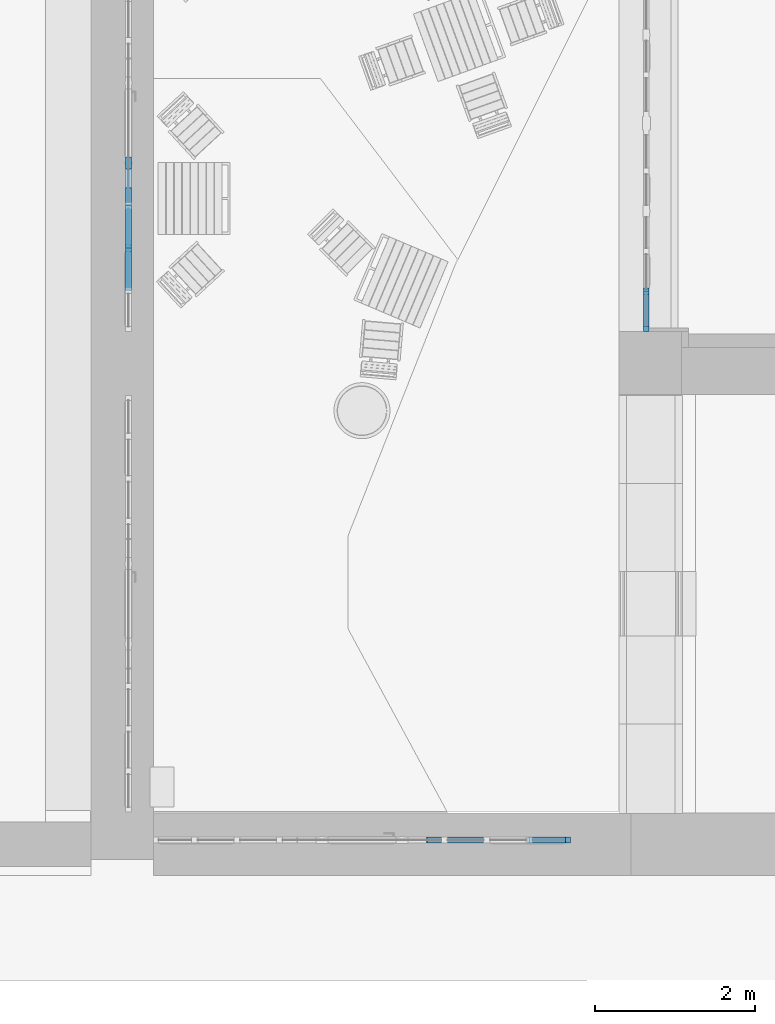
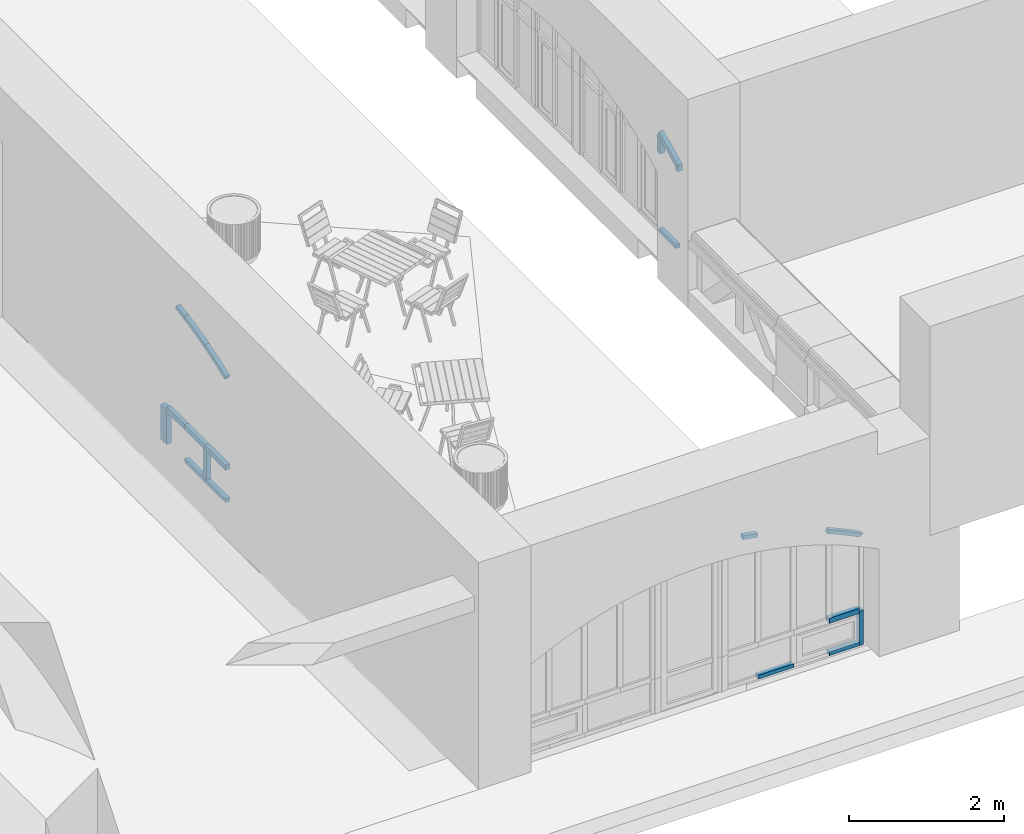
# One storey, part 19 of 88: 20 members, 3 elements without a shape of their own.
"""IFC2X3 building model written with IfcOpenShell, lengths in millimetres."""

from ifc_helpers import new_model, entity, si_unit, converted_unit, derived_unit, direction, frame, frame_2d, origin, place, context, subcontext, project, spatial, polyline, circle_curve, parameter, trimmed, segment, composite_curve, rectangle, outline, extrude, source, transform, mapped, material, type_object, type_shapes, element, aggregate, save


model = new_model("IFC2X3")

# Units and contexts
model_context = context("Model", 3, precision=0.01, world=origin(), true_north=direction((6.123031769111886e-17, 1.0)))
body_context = subcontext(model_context, "Body", "Model", "MODEL_VIEW")
ifc_project = project(units=[si_unit("LENGTHUNIT", "METRE", prefix="MILLI"), si_unit("AREAUNIT", "SQUARE_METRE"), si_unit("VOLUMEUNIT", "CUBIC_METRE"), converted_unit("PLANEANGLEUNIT", "DEGREE", entity("IfcPlaneAngleMeasure", 0.017453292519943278), si_unit("PLANEANGLEUNIT", "RADIAN"), dimensions=[0, 0, 0, 0, 0, 0, 0]), si_unit("MASSUNIT", "GRAM", prefix="KILO"), derived_unit("MASSDENSITYUNIT", [(si_unit("MASSUNIT", "GRAM", prefix="KILO"), 1), (si_unit("LENGTHUNIT", "METRE"), -3)]), derived_unit("IONCONCENTRATIONUNIT", [(si_unit("MASSUNIT", "GRAM", prefix="KILO"), 1), (si_unit("LENGTHUNIT", "METRE"), -3)]), derived_unit("MOMENTOFINERTIAUNIT", [(si_unit("LENGTHUNIT", "METRE"), 4)]), si_unit("TIMEUNIT", "SECOND"), si_unit("FREQUENCYUNIT", "HERTZ"), si_unit("THERMODYNAMICTEMPERATUREUNIT", "DEGREE_CELSIUS"), derived_unit("THERMALTRANSMITTANCEUNIT", [(si_unit("MASSUNIT", "GRAM", prefix="KILO"), 1), (si_unit("THERMODYNAMICTEMPERATUREUNIT", "KELVIN"), -1), (si_unit("TIMEUNIT", "SECOND"), -3)]), derived_unit("THERMALCONDUCTANCEUNIT", [(si_unit("MASSUNIT", "GRAM", prefix="KILO"), 1), (si_unit("THERMODYNAMICTEMPERATUREUNIT", "KELVIN"), -1), (si_unit("TIMEUNIT", "SECOND"), -3), (si_unit("LENGTHUNIT", "METRE"), 1)]), derived_unit("VOLUMETRICFLOWRATEUNIT", [(si_unit("LENGTHUNIT", "METRE", prefix="DECI"), 3), (si_unit("TIMEUNIT", "SECOND"), -1)]), derived_unit("MASSFLOWRATEUNIT", [(si_unit("MASSUNIT", "GRAM", prefix="KILO"), 1), (si_unit("TIMEUNIT", "SECOND"), -1)]), derived_unit("ROTATIONALFREQUENCYUNIT", [(si_unit("TIMEUNIT", "SECOND"), -1)]), si_unit("ELECTRICCURRENTUNIT", "AMPERE"), si_unit("ELECTRICVOLTAGEUNIT", "VOLT"), si_unit("POWERUNIT", "WATT"), si_unit("FORCEUNIT", "NEWTON", prefix="KILO"), si_unit("ILLUMINANCEUNIT", "LUX"), si_unit("LUMINOUSFLUXUNIT", "LUMEN"), si_unit("LUMINOUSINTENSITYUNIT", "CANDELA"), si_unit("ENERGYUNIT", "JOULE"), derived_unit("USERDEFINED", [(si_unit("MASSUNIT", "GRAM", prefix="KILO"), -1), (si_unit("LENGTHUNIT", "METRE"), -2), (si_unit("TIMEUNIT", "SECOND"), 3), (si_unit("LUMINOUSFLUXUNIT", "LUMEN"), 1)]), derived_unit("USERDEFINED", [(si_unit("MASSUNIT", "GRAM", prefix="KILO"), 1), (si_unit("TIMEUNIT", "SECOND"), -3), (si_unit("LENGTHUNIT", "METRE"), 3), (si_unit("ELECTRICCURRENTUNIT", "AMPERE"), -2)]), derived_unit("SOUNDPOWERUNIT", [(si_unit("MASSUNIT", "GRAM", prefix="KILO"), 1), (si_unit("TIMEUNIT", "SECOND"), -3), (si_unit("LENGTHUNIT", "METRE"), 2)]), derived_unit("SOUNDPRESSUREUNIT", [(si_unit("MASSUNIT", "GRAM", prefix="KILO"), 1), (si_unit("LENGTHUNIT", "METRE"), -1), (si_unit("TIMEUNIT", "SECOND"), -2)]), derived_unit("LINEARVELOCITYUNIT", [(si_unit("LENGTHUNIT", "METRE"), 1), (si_unit("TIMEUNIT", "SECOND"), -1)]), si_unit("PRESSUREUNIT", "PASCAL"), derived_unit("USERDEFINED", [(si_unit("MASSUNIT", "GRAM", prefix="KILO"), 1), (si_unit("LENGTHUNIT", "METRE"), -2), (si_unit("TIMEUNIT", "SECOND"), -2)]), derived_unit("LINEARFORCEUNIT", [(si_unit("MASSUNIT", "GRAM", prefix="KILO"), 1), (si_unit("TIMEUNIT", "SECOND"), -2)]), derived_unit("PLANARFORCEUNIT", [(si_unit("MASSUNIT", "GRAM", prefix="KILO"), 1), (si_unit("LENGTHUNIT", "METRE"), -1), (si_unit("TIMEUNIT", "SECOND"), -2)]), derived_unit("SPECIFICHEATCAPACITYUNIT", [(si_unit("THERMODYNAMICTEMPERATUREUNIT", "KELVIN"), -1), (si_unit("LENGTHUNIT", "METRE"), 2), (si_unit("TIMEUNIT", "SECOND"), -2)]), derived_unit("HEATFLUXDENSITYUNIT", [(si_unit("MASSUNIT", "GRAM", prefix="KILO"), 1), (si_unit("TIMEUNIT", "SECOND"), -3)]), derived_unit("HEATINGVALUEUNIT", [(si_unit("LENGTHUNIT", "METRE"), 2), (si_unit("TIMEUNIT", "SECOND"), -2)]), derived_unit("VAPORPERMEABILITYUNIT", [(si_unit("LENGTHUNIT", "METRE"), -1), (si_unit("TIMEUNIT", "SECOND"), 1)]), derived_unit("DYNAMICVISCOSITYUNIT", [(si_unit("MASSUNIT", "GRAM", prefix="KILO"), 1), (si_unit("TIMEUNIT", "SECOND"), -1), (si_unit("LENGTHUNIT", "METRE"), -1)]), derived_unit("THERMALEXPANSIONCOEFFICIENTUNIT", [(si_unit("THERMODYNAMICTEMPERATUREUNIT", "KELVIN"), -1)]), derived_unit("MODULUSOFELASTICITYUNIT", [(si_unit("MASSUNIT", "GRAM", prefix="KILO"), 1), (si_unit("LENGTHUNIT", "METRE"), -1), (si_unit("TIMEUNIT", "SECOND"), -2)]), derived_unit("ISOTHERMALMOISTURECAPACITYUNIT", [(si_unit("MASSUNIT", "GRAM", prefix="KILO"), -1), (si_unit("LENGTHUNIT", "METRE"), 3)]), derived_unit("MOISTUREDIFFUSIVITYUNIT", [(si_unit("TIMEUNIT", "SECOND"), -1), (si_unit("LENGTHUNIT", "METRE"), 2)]), derived_unit("MASSPERLENGTHUNIT", [(si_unit("MASSUNIT", "GRAM", prefix="KILO"), 1), (si_unit("LENGTHUNIT", "METRE"), -1)]), derived_unit("THERMALRESISTANCEUNIT", [(si_unit("MASSUNIT", "GRAM", prefix="KILO"), -1), (si_unit("TIMEUNIT", "SECOND"), 3), (si_unit("THERMODYNAMICTEMPERATUREUNIT", "KELVIN"), 1)]), derived_unit("ACCELERATIONUNIT", [(si_unit("LENGTHUNIT", "METRE"), 1), (si_unit("TIMEUNIT", "SECOND"), -2)]), derived_unit("ANGULARVELOCITYUNIT", [(si_unit("TIMEUNIT", "SECOND"), -1), (si_unit("PLANEANGLEUNIT", "RADIAN"), 1)]), derived_unit("LINEARSTIFFNESSUNIT", [(si_unit("MASSUNIT", "GRAM", prefix="KILO"), 1), (si_unit("TIMEUNIT", "SECOND"), -2)]), derived_unit("WARPINGCONSTANTUNIT", [(si_unit("LENGTHUNIT", "METRE"), 6)]), derived_unit("LINEARMOMENTUNIT", [(si_unit("MASSUNIT", "GRAM", prefix="KILO"), 1), (si_unit("LENGTHUNIT", "METRE"), 1), (si_unit("TIMEUNIT", "SECOND"), -2)]), derived_unit("TORQUEUNIT", [(si_unit("MASSUNIT", "GRAM", prefix="KILO"), 1), (si_unit("LENGTHUNIT", "METRE"), 2), (si_unit("TIMEUNIT", "SECOND"), -2)])], contexts=[model_context])

# Site, building, storey
site_placement = place(None, origin())
site = spatial("IfcSite", under=ifc_project, at=site_placement, Name="Default", CompositionType="ELEMENT")
building_placement = place(site_placement, origin())
building = spatial("IfcBuilding", under=site, at=building_placement, Name="Eesti Rahvusraamatukogu hoone renoveerimise projekteerimistööd", CompositionType="ELEMENT")
storey_placement = place(building_placement, origin())
storey = spatial("IfcBuildingStorey", under=building, at=storey_placement, Name="1. korrus", CompositionType="ELEMENT", Elevation=0.0)

# Curtain wall, members
curtain_wall_type_1 = type_object("IfcCurtainWallType", Name="Curtain Wall:Ak-02", PredefinedType="NOTDEFINED")
curtain_wall_1_placement = place(storey_placement, origin())
curtain_wall_1 = element("IfcCurtainWall", 1, at=curtain_wall_1_placement, inside=storey, type_object=curtain_wall_type_1, Name="Curtain Wall:Ak-02", ObjectType="Curtain Wall:Ak-02")
ifc_material = material(Name="LUMION_dark steel window frames")
member_type_1 = type_object("IfcMemberType", Name="Rectangular Mullion:NEW 80x70mm", PredefinedType="MULLION", material=ifc_material)
shared_shape_1 = source(origin(), body_context, "Body", "SweptSolid", [
    extrude(outline(composite_curve([segment(polyline([(-53.11529804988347, -267.70979815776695), (26.884701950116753, -267.709798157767)]), True, "CONTINUOUS"), segment(trimmed(circle_curve(frame_2d((5467.600382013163, -267.70979815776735), x_axis=(-0.9949883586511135, 0.0999908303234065)), 5440.7156800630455), [parameter(0.26669094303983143)], [parameter(5.738642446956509)], True, "PARAMETER"), False, "CONTINUOUS"), segment(polyline([(51.67804717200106, 251.10844964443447), (-25.447451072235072, 284.3111466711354)]), True, "CONTINUOUS"), segment(trimmed(circle_curve(frame_2d((5467.600382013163, -267.70979815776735), x_axis=(-0.9949883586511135, 0.0999908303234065)), 5520.7156800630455), [parameter(3.5622212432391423e-13)], [parameter(5.738642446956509)], True, "PARAMETER"), True, "CONTINUOUS")], self_intersect=False)), frame((-53.748425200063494, -35.0, -280.34176941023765), z_axis=(0.0, 1.0, 0.0), x_axis=(-0.9949883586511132, 0.0, 0.0999908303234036)), (0.0, 0.0, 1.0), 69.99999999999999),
])
type_shapes(member_type_1, [shared_shape_1])
member_1_placement = place(curtain_wall_1_placement, frame((-36440.0, 6790.0, 3320.0), z_axis=(0.0, -0.8821580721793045, -0.4709534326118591), x_axis=(0.0, -0.4709534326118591, 0.8821580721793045)))
member_1 = element("IfcMember", 2, at=member_1_placement, type_object=member_type_1, material=ifc_material, Name="Rectangular Mullion:NEW 80x70mm", ObjectType="Rectangular Mullion:NEW 80x70mm", context=body_context, shape_type="MappedRepresentation", body=[
    mapped(shared_shape_1, transform((0.0, 0.0, 0.0), scale=1.0)),
])
member_type_2 = type_object("IfcMemberType", Name="Rectangular Mullion:NEW 80x70mm", PredefinedType="MULLION", material=ifc_material)
shared_shape_2 = source(origin(), body_context, "Body", "SweptSolid", [
    extrude(outline(composite_curve([segment(polyline([(-151.8249085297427, -46.086167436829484), (80.20942675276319, -46.086167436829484)]), True, "CONTINUOUS"), segment(trimmed(circle_curve(frame_2d((-4921.968809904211, 2093.913832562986), x_axis=(0.8821580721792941, -0.47095343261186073)), 5440.7156800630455), [parameter(4.934304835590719)], [parameter(5.738642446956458)], True, "PARAMETER"), True, "CONTINUOUS"), segment(trimmed(circle_curve(frame_2d((-4921.968809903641, 2093.9138325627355), x_axis=(0.9248280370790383, -0.3803854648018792)), 5440.715680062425), [parameter(0.0)], [parameter(0.1089206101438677)], True, "PARAMETER"), True, "CONTINUOUS"), segment(polyline([(113.68279751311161, 33.91383256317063), (-151.8249085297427, 33.913832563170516)]), True, "CONTINUOUS"), segment(polyline([(-151.8249085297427, 33.913832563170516), (-151.8249085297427, -46.086167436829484)]), True, "CONTINUOUS")], self_intersect=False)), frame((-6.086167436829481, -35.0, -151.8249085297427), z_axis=(0.0, 1.0, 0.0), x_axis=(0.0, 0.0, -1.0)), (0.0, 0.0, 1.0), 70.00000000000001),
])
type_shapes(member_type_2, [shared_shape_2])
member_2_placement = place(curtain_wall_1_placement, frame((-36440.0, 7290.0, 3220.0), z_axis=(0.0, 0.0, -1.0), x_axis=(0.0, -1.0, 0.0)))
member_2 = element("IfcMember", 3, at=member_2_placement, type_object=member_type_2, material=ifc_material, Name="Rectangular Mullion:NEW 80x70mm", ObjectType="Rectangular Mullion:NEW 80x70mm", context=body_context, shape_type="MappedRepresentation", body=[
    mapped(shared_shape_2, transform((0.0, 0.0, 0.0), scale=1.0)),
])
member_type_3 = type_object("IfcMemberType", Name="Rectangular Mullion:NEW 60x70mm", PredefinedType="MULLION", material=ifc_material)
shared_shape_3 = source(origin(), body_context, "Body", "SweptSolid", [
    extrude(rectangle(XDim=60.0, YDim=70.0, at=frame_2d((0.0, 3.552713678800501e-15), x_axis=(1.0, 0.0))), frame((-30.0, 0.0, -440.0), z_axis=(0.0, 0.0, 1.0), x_axis=(-1.0, 0.0, 0.0)), (0.0, 0.0, 1.0), 439.9999999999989),
])
type_shapes(member_type_3, [shared_shape_3])
member_3_placement = place(curtain_wall_1_placement, frame((-36440.0, 7290.0, 1970.0), z_axis=(0.0, 1.0, 0.0), x_axis=(0.0, 0.0, -1.0)))
member_3 = element("IfcMember", 4, at=member_3_placement, type_object=member_type_3, material=ifc_material, Name="Rectangular Mullion:NEW 60x70mm", ObjectType="Rectangular Mullion:NEW 60x70mm", context=body_context, shape_type="MappedRepresentation", body=[
    mapped(shared_shape_3, transform((0.0, 0.0, 0.0), scale=1.0)),
])
member_type_4 = type_object("IfcMemberType", Name="Rectangular Mullion:NEW 60x70mm", PredefinedType="MULLION", material=ifc_material)
shared_shape_4 = source(origin(), body_context, "Body", "SweptSolid", [
    extrude(outline(polyline([(-35.33630318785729, -30.0), (64.6636968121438, -30.0), (6.008909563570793, 30.0), (-35.33630318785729, 30.0), (-35.33630318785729, -30.0)])), frame((-30.0, -35.0, -35.33630318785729), z_axis=(0.0, 1.0, 0.0), x_axis=(0.0, 0.0, -1.0)), (0.0, 0.0, 1.0), 69.99999999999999),
])
type_shapes(member_type_4, [shared_shape_4])
member_4_placement = place(curtain_wall_1_placement, frame((-36440.0, 6790.0, 3220.0), z_axis=(0.0, 0.0, -1.0), x_axis=(0.0, -1.0, 0.0)))
member_4 = element("IfcMember", 5, at=member_4_placement, type_object=member_type_4, material=ifc_material, Name="Rectangular Mullion:NEW 60x70mm", ObjectType="Rectangular Mullion:NEW 60x70mm", context=body_context, shape_type="MappedRepresentation", body=[
    mapped(shared_shape_4, transform((0.0, 0.0, 0.0), scale=1.0)),
])
aggregate(curtain_wall_1, [member_1, member_2, member_3, member_4])

curtain_wall_type_2 = type_object("IfcCurtainWallType", Name="Curtain Wall:Ak-05*", PredefinedType="NOTDEFINED")
curtain_wall_2_placement = place(storey_placement, origin())
curtain_wall_2 = element("IfcCurtainWall", 6, at=curtain_wall_2_placement, inside=storey, type_object=curtain_wall_type_2, Name="Curtain Wall:Ak-05*", ObjectType="Curtain Wall:Ak-05*")
member_type_5 = type_object("IfcMemberType", Name="Rectangular Mullion:NEW 60x70mm", PredefinedType="MULLION", material=ifc_material)
shared_shape_5 = source(origin(), body_context, "Body", "SweptSolid", [
    extrude(outline(composite_curve([segment(polyline([(-44.19959331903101, -278.92780712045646), (15.800406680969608, -278.9278071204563)]), True, "CONTINUOUS"), segment(trimmed(circle_curve(frame_2d((5479.080973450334, -278.9278071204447), x_axis=(-0.9948301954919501, 0.10155236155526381)), 5463.280566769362), [parameter(3.5622212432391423e-13)], [parameter(5.828569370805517)], True, "PARAMETER"), False, "CONTINUOUS"), segment(polyline([(44.04449918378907, 275.8812362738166), (-15.645312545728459, 281.97437796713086)]), True, "CONTINUOUS"), segment(trimmed(circle_curve(frame_2d((5479.080973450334, -278.9278071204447), x_axis=(-0.9948301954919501, 0.10155236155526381)), 5523.280566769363), [parameter(3.5622212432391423e-13)], [parameter(5.828569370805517)], True, "PARAMETER"), True, "CONTINUOUS")], self_intersect=False)), frame((-44.19959331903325, -35.0, -278.9278071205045), z_axis=(0.0, 1.0, 0.0), x_axis=(-0.9948301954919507, 0.0, 0.10155236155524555)), (0.0, 0.0, 1.0), 69.99999999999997),
])
type_shapes(member_type_5, [shared_shape_5])
member_5_placement = place(curtain_wall_2_placement, frame((-42905.0, 7300.0, 1939.3047106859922), z_axis=(0.0, -0.9256428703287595, -0.37839830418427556), x_axis=(0.0, -0.37839830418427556, 0.9256428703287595)))
member_5 = element("IfcMember", 7, at=member_5_placement, type_object=member_type_5, material=ifc_material, Name="Rectangular Mullion:NEW 60x70mm", ObjectType="Rectangular Mullion:NEW 60x70mm", context=body_context, shape_type="MappedRepresentation", body=[
    mapped(shared_shape_5, transform((0.0, 0.0, 0.0), scale=1.0)),
])
member_type_6 = type_object("IfcMemberType", Name="Rectangular Mullion:NEW 60x70mm", PredefinedType="MULLION", material=ifc_material)
shared_shape_6 = source(origin(), body_context, "Body", "SweptSolid", [
    extrude(outline(composite_curve([segment(polyline([(-43.38278695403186, -270.80676601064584), (16.61721304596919, -270.80676601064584)]), True, "CONTINUOUS"), segment(trimmed(circle_curve(frame_2d((5479.897779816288, -270.80676601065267), x_axis=(-0.9951275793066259, 0.09859564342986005)), 5463.280566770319), [parameter(3.5622212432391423e-13)], [parameter(5.658307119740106)], True, "PARAMETER"), False, "CONTINUOUS"), segment(polyline([(43.23661433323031, 267.8488967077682), (-16.471040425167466, 273.7646353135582)]), True, "CONTINUOUS"), segment(trimmed(circle_curve(frame_2d((5479.897779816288, -270.80676601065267), x_axis=(-0.9951275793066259, 0.09859564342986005)), 5523.280566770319), [parameter(3.5622212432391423e-13)], [parameter(5.658307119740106)], True, "PARAMETER"), True, "CONTINUOUS")], self_intersect=False)), frame((-43.382786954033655, -35.0, -270.8067660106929), z_axis=(0.0, 1.0, 0.0), x_axis=(-0.9951275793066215, 0.0, 0.09859564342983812)), (0.0, 0.0, 1.0), 69.99999999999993),
])
type_shapes(member_type_6, [shared_shape_6])
member_6_placement = place(curtain_wall_2_placement, frame((-42905.0, 7830.0, 2125.1180799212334), z_axis=(0.0, -0.9592847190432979, -0.2824408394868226), x_axis=(0.0, -0.2824408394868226, 0.9592847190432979)))
member_6 = element("IfcMember", 8, at=member_6_placement, type_object=member_type_6, material=ifc_material, Name="Rectangular Mullion:NEW 60x70mm", ObjectType="Rectangular Mullion:NEW 60x70mm", context=body_context, shape_type="MappedRepresentation", body=[
    mapped(shared_shape_6, transform((0.0, 0.0, 0.0), scale=1.0)),
])
member_type_7 = type_object("IfcMemberType", Name="Rectangular Mullion:NEW 60x70mm", PredefinedType="MULLION", material=ifc_material)
shared_shape_7 = source(origin(), body_context, "Body", "SweptSolid", [
    extrude(outline(composite_curve([segment(polyline([(-32.20246871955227, -109.97239538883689), (27.79753128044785, -109.97239538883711)]), True, "CONTINUOUS"), segment(trimmed(circle_curve(frame_2d((5491.078098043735, -109.97239538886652), x_axis=(-0.9991981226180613, 0.040038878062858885)), 5463.280566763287), [parameter(3.5622212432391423e-13)], [parameter(2.2946721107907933)], True, "PARAMETER"), False, "CONTINUOUS"), segment(polyline([(32.17841239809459, 108.77122904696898), (-27.7734749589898, 111.17356173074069)]), True, "CONTINUOUS"), segment(trimmed(circle_curve(frame_2d((5491.078098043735, -109.97239538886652), x_axis=(-0.9991981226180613, 0.040038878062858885)), 5523.280566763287), [parameter(3.5622212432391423e-13)], [parameter(2.2946721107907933)], True, "PARAMETER"), True, "CONTINUOUS")], self_intersect=False)), frame((-32.202468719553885, -35.0, -109.9723953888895), z_axis=(0.0, 1.0, 0.0), x_axis=(-0.9991981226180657, 0.0, 0.04003887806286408)), (0.0, 0.0, 1.0), 69.99999999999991),
])
type_shapes(member_type_7, [shared_shape_7])
member_7_placement = place(curtain_wall_2_placement, frame((-42905.0, 8360.0, 2253.111256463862), z_axis=(0.0, -0.9824581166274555, -0.1864833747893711), x_axis=(0.0, -0.1864833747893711, 0.9824581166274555)))
member_7 = element("IfcMember", 9, at=member_7_placement, type_object=member_type_7, material=ifc_material, Name="Rectangular Mullion:NEW 60x70mm", ObjectType="Rectangular Mullion:NEW 60x70mm", context=body_context, shape_type="MappedRepresentation", body=[
    mapped(shared_shape_7, transform((0.0, 0.0, 0.0), scale=1.0)),
])
member_type_8 = type_object("IfcMemberType", Name="Rectangular Mullion:NEW 150x90mm", PredefinedType="MULLION", material=ifc_material)
shared_shape_8 = source(origin(), body_context, "Body", "SweptSolid", [
    extrude(outline(polyline([(40.0, -20.0), (45.0, -20.0), (45.0, 20.0), (40.0, 20.0), (40.0, 75.0), (-40.0, 75.0), (-40.0, 20.0), (-45.0, 20.0), (-45.0, -20.0), (-40.0, -20.0), (-40.0, -75.0), (40.0, -75.0), (40.0, -20.0)])), frame((0.0, 0.0, -550.0), z_axis=(0.0, 0.0, 1.0), x_axis=(0.0, -1.0, 0.0)), (0.0, 0.0, 1.0), 550.0000000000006),
])
type_shapes(member_type_8, [shared_shape_8])
member_8_placement = place(curtain_wall_2_placement, frame((-42905.0, 8890.0, -50.0), z_axis=(0.0, 0.0, -1.0), x_axis=(0.0, -1.0, 0.0)))
member_8 = element("IfcMember", 10, at=member_8_placement, type_object=member_type_8, material=ifc_material, Name="Rectangular Mullion:NEW 150x90mm", ObjectType="Rectangular Mullion:NEW 150x90mm", context=body_context, shape_type="MappedRepresentation", body=[
    mapped(shared_shape_8, transform((0.0, 0.0, 0.0), scale=1.0)),
])
member_type_9 = type_object("IfcMemberType", Name="Rectangular Mullion:NEW 80x70mm", PredefinedType="MULLION", material=ifc_material)
shared_shape_9 = source(origin(), body_context, "Body", "SweptSolid", [
    extrude(rectangle(XDim=80.0, YDim=70.0, at=frame_2d((0.0, -3.552713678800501e-15), x_axis=(1.0, 0.0))), frame((0.0, 0.0, -530.0), z_axis=(0.0, 0.0, 1.0), x_axis=(-1.0, 0.0, 0.0)), (0.0, 0.0, 1.0), 530.0000000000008),
])
type_shapes(member_type_9, [shared_shape_9])
member_9_placement = place(curtain_wall_2_placement, frame((-42905.0, 7300.0, 500.0), z_axis=(0.0, -1.0, 0.0), x_axis=(0.0, 0.0, 1.0)))
member_9 = element("IfcMember", 11, at=member_9_placement, type_object=member_type_9, material=ifc_material, Name="Rectangular Mullion:NEW 80x70mm", ObjectType="Rectangular Mullion:NEW 80x70mm", context=body_context, shape_type="MappedRepresentation", body=[
    mapped(shared_shape_9, transform((0.0, 0.0, 0.0), scale=1.0)),
])
member_10_placement = place(curtain_wall_2_placement, frame((-42905.0, 7830.0, 500.0), z_axis=(0.0, -1.0, 0.0), x_axis=(0.0, 0.0, 1.0)))
member_10 = element("IfcMember", 12, at=member_10_placement, type_object=member_type_9, material=ifc_material, Name="Rectangular Mullion:NEW 80x70mm", ObjectType="Rectangular Mullion:NEW 80x70mm", context=body_context, shape_type="MappedRepresentation", body=[
    mapped(shared_shape_9, transform((0.0, 0.0, 0.0), scale=1.0)),
])
member_type_10 = type_object("IfcMemberType", Name="Rectangular Mullion:NEW 80x70mm", PredefinedType="MULLION", material=ifc_material)
shared_shape_10 = source(origin(), body_context, "Body", "SweptSolid", [
    extrude(rectangle(XDim=80.0, YDim=70.0, at=frame_2d((0.0, -3.552713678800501e-15), x_axis=(1.0, 0.0))), frame((0.0, 0.0, -455.0), z_axis=(0.0, 0.0, 1.0), x_axis=(-1.0, 0.0, 0.0)), (0.0, 0.0, 1.0), 455.0000000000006),
])
type_shapes(member_type_10, [shared_shape_10])
member_11_placement = place(curtain_wall_2_placement, frame((-42905.0, 8360.0, 500.0), z_axis=(0.0, -1.0, 0.0), x_axis=(0.0, 0.0, 1.0)))
member_11 = element("IfcMember", 13, at=member_11_placement, type_object=member_type_10, material=ifc_material, Name="Rectangular Mullion:NEW 80x70mm", ObjectType="Rectangular Mullion:NEW 80x70mm", context=body_context, shape_type="MappedRepresentation", body=[
    mapped(shared_shape_10, transform((0.0, 0.0, 0.0), scale=1.0)),
])
member_type_11 = type_object("IfcMemberType", Name="Rectangular Mullion:NEW 80x70mm", PredefinedType="MULLION", material=ifc_material)
shared_shape_11 = source(origin(), body_context, "Body", "SweptSolid", [
    extrude(rectangle(XDim=80.0, YDim=70.0, at=frame_2d((0.0, 3.552713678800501e-15), x_axis=(1.0, 0.0))), frame((0.0, 0.0, -450.0), z_axis=(0.0, 0.0, 1.0), x_axis=(-1.0, 0.0, 0.0)), (0.0, 0.0, 1.0), 450.00000000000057),
])
type_shapes(member_type_11, [shared_shape_11])
member_12_placement = place(curtain_wall_2_placement, frame((-42905.0, 7830.0, 10.0), z_axis=(0.0, 0.0, -1.0), x_axis=(0.0, -1.0, 0.0)))
member_12 = element("IfcMember", 14, at=member_12_placement, type_object=member_type_11, material=ifc_material, Name="Rectangular Mullion:NEW 80x70mm", ObjectType="Rectangular Mullion:NEW 80x70mm", context=body_context, shape_type="MappedRepresentation", body=[
    mapped(shared_shape_11, transform((0.0, 0.0, 0.0), scale=1.0)),
])
member_type_12 = type_object("IfcMemberType", Name="Rectangular Mullion:NEW 60x70mm", PredefinedType="MULLION", material=ifc_material)
shared_shape_12 = source(origin(), body_context, "Body", "SweptSolid", [
    extrude(rectangle(XDim=60.0, YDim=70.0, at=frame_2d((0.0, 3.552713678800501e-15), x_axis=(1.0, 0.0))), frame((-30.0, 0.0, -530.0), z_axis=(0.0, 0.0, 1.0), x_axis=(-1.0, 0.0, 0.0)), (0.0, 0.0, 1.0), 530.0000000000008),
])
type_shapes(member_type_12, [shared_shape_12])
member_13_placement = place(curtain_wall_2_placement, frame((-42905.0, 7830.0, -50.0), z_axis=(0.0, 1.0, 0.0), x_axis=(0.0, 0.0, -1.0)))
member_13 = element("IfcMember", 15, at=member_13_placement, type_object=member_type_12, material=ifc_material, Name="Rectangular Mullion:NEW 60x70mm", ObjectType="Rectangular Mullion:NEW 60x70mm", context=body_context, shape_type="MappedRepresentation", body=[
    mapped(shared_shape_12, transform((0.0, 0.0, 0.0), scale=1.0)),
])
member_type_13 = type_object("IfcMemberType", Name="Rectangular Mullion:NEW 60x70mm", PredefinedType="MULLION", material=ifc_material)
shared_shape_13 = source(origin(), body_context, "Body", "SweptSolid", [
    extrude(rectangle(XDim=60.0, YDim=70.0, at=frame_2d((0.0, 3.552713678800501e-15), x_axis=(1.0, 0.0))), frame((-30.0, 0.0, -530.0), z_axis=(0.0, 0.0, 1.0), x_axis=(-1.0, 0.0, 0.0)), (0.0, 0.0, 1.0), 530.0000000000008),
])
type_shapes(member_type_13, [shared_shape_13])
member_14_placement = place(curtain_wall_2_placement, frame((-42905.0, 8360.0, -50.0), z_axis=(0.0, 1.0, 0.0), x_axis=(0.0, 0.0, -1.0)))
member_14 = element("IfcMember", 16, at=member_14_placement, type_object=member_type_13, material=ifc_material, Name="Rectangular Mullion:NEW 60x70mm", ObjectType="Rectangular Mullion:NEW 60x70mm", context=body_context, shape_type="MappedRepresentation", body=[
    mapped(shared_shape_13, transform((0.0, 0.0, 0.0), scale=1.0)),
])
aggregate(curtain_wall_2, [member_5, member_6, member_7, member_8, member_9, member_10, member_11, member_12, member_13, member_14])

curtain_wall_type_3 = type_object("IfcCurtainWallType", Name="Curtain Wall:Ak-05", PredefinedType="NOTDEFINED")
curtain_wall_3_placement = place(storey_placement, origin())
curtain_wall_3 = element("IfcCurtainWall", 17, at=curtain_wall_3_placement, inside=storey, type_object=curtain_wall_type_3, Name="Curtain Wall:Ak-05", ObjectType="Curtain Wall:Ak-05")
member_type_14 = type_object("IfcMemberType", Name="Rectangular Mullion:NEW 60x70mm", PredefinedType="MULLION", material=ifc_material)
shared_shape_14 = source(origin(), body_context, "Body", "SweptSolid", [
    extrude(outline(composite_curve([segment(trimmed(circle_curve(frame_2d((4549.812785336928, 3066.207249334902), x_axis=(-0.8006634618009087, -0.5991143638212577)), 5523.280566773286), [parameter(354.15250498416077)], [parameter(359.99999999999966)], True, "PARAMETER"), True, "CONTINUOUS"), segment(polyline([(127.52384624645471, -242.8694736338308), (175.56365395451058, -206.92261180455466)]), True, "CONTINUOUS"), segment(trimmed(circle_curve(frame_2d((4549.812785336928, 3066.207249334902), x_axis=(-0.8006634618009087, -0.5991143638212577)), 5463.2805667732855), [parameter(354.53073311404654)], [parameter(359.99999999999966)], True, "PARAMETER"), False, "CONTINUOUS"), segment(polyline([(-116.4903743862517, 224.89604271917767), (-186.5971258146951, 224.89604271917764)]), True, "CONTINUOUS")], self_intersect=False)), frame((-43.402905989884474, -35.0, -270.8580815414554), z_axis=(0.0, -1.0, 0.0), x_axis=(-0.800663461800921, 0.0, 0.5991143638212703)), (0.0, 0.0, -1.0), 69.99999999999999),
])
type_shapes(member_type_14, [shared_shape_14])
member_15_placement = place(curtain_wall_3_placement, frame((-37900.0, 440.0, 1939.3047106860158), z_axis=(-0.9256428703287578, 0.0, 0.3783983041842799), x_axis=(0.3783983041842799, 0.0, 0.9256428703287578)))
member_15 = element("IfcMember", 18, at=member_15_placement, type_object=member_type_14, material=ifc_material, Name="Rectangular Mullion:NEW 60x70mm", ObjectType="Rectangular Mullion:NEW 60x70mm", context=body_context, shape_type="MappedRepresentation", body=[
    mapped(shared_shape_14, transform((0.0, 0.0, 0.0), scale=1.0)),
])
member_type_15 = type_object("IfcMemberType", Name="Rectangular Mullion:NEW 80x70mm", PredefinedType="MULLION", material=ifc_material)
shared_shape_15 = source(origin(), body_context, "Body", "SweptSolid", [
    extrude(rectangle(XDim=80.0, YDim=70.0, at=frame_2d((0.0, -3.552713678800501e-15), x_axis=(1.0, 0.0))), frame((0.0, 0.0, -450.0), z_axis=(0.0, 0.0, 1.0), x_axis=(-1.0, 0.0, 0.0)), (0.0, 0.0, 1.0), 449.9999999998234),
])
type_shapes(member_type_15, [shared_shape_15])
member_16_placement = place(curtain_wall_3_placement, frame((-37900.0, 440.0, 500.0), z_axis=(-1.0, 0.0, 0.0), x_axis=(0.0, 0.0, 1.0)))
member_16 = element("IfcMember", 19, at=member_16_placement, type_object=member_type_15, material=ifc_material, Name="Rectangular Mullion:NEW 80x70mm", ObjectType="Rectangular Mullion:NEW 80x70mm", context=body_context, shape_type="MappedRepresentation", body=[
    mapped(shared_shape_15, transform((0.0, 0.0, 0.0), scale=1.0)),
])
member_type_16 = type_object("IfcMemberType", Name="Rectangular Mullion:NEW 60x70mm", PredefinedType="MULLION", material=ifc_material)
shared_shape_16 = source(origin(), body_context, "Body", "SweptSolid", [
    extrude(rectangle(XDim=60.0, YDim=70.0, at=frame_2d((0.0, -3.552713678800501e-15), x_axis=(1.0, 0.0))), frame((-30.0, 0.0, -550.0), z_axis=(0.0, 0.0, 1.0), x_axis=(-1.0, 0.0, 0.0)), (0.0, 0.0, 1.0), 550.0000000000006),
])
type_shapes(member_type_16, [shared_shape_16])
member_17_placement = place(curtain_wall_3_placement, frame((-37390.0, 440.0, 500.0)))
member_17 = element("IfcMember", 20, at=member_17_placement, type_object=member_type_16, material=ifc_material, Name="Rectangular Mullion:NEW 60x70mm", ObjectType="Rectangular Mullion:NEW 60x70mm", context=body_context, shape_type="MappedRepresentation", body=[
    mapped(shared_shape_16, transform((0.0, 0.0, 0.0), scale=1.0)),
])
member_type_17 = type_object("IfcMemberType", Name="Rectangular Mullion:NEW 60x70mm", PredefinedType="MULLION", material=ifc_material)
shared_shape_17 = source(origin(), body_context, "Body", "SweptSolid", [
    extrude(rectangle(XDim=60.0, YDim=70.0, at=frame_2d((0.0, 3.552713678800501e-15), x_axis=(1.0, 0.0))), frame((-30.0, 0.0, -530.0), z_axis=(0.0, 0.0, 1.0), x_axis=(-1.0, 0.0, 0.0)), (0.0, 0.0, 1.0), 530.0000000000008),
])
type_shapes(member_type_17, [shared_shape_17])
member_18_placement = place(curtain_wall_3_placement, frame((-38430.0, 440.0, -50.0), z_axis=(1.0, 0.0, 0.0), x_axis=(0.0, 0.0, -1.0)))
member_18 = element("IfcMember", 21, at=member_18_placement, type_object=member_type_17, material=ifc_material, Name="Rectangular Mullion:NEW 60x70mm", ObjectType="Rectangular Mullion:NEW 60x70mm", context=body_context, shape_type="MappedRepresentation", body=[
    mapped(shared_shape_17, transform((0.0, 0.0, 0.0), scale=1.0)),
])
member_type_18 = type_object("IfcMemberType", Name="Rectangular Mullion:NEW 60x70mm", PredefinedType="MULLION", material=ifc_material)
shared_shape_18 = source(origin(), body_context, "Body", "SweptSolid", [
    extrude(rectangle(XDim=60.0, YDim=70.0, at=frame_2d((0.0, 3.552713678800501e-15), x_axis=(1.0, 0.0))), frame((-30.0, 0.0, -450.0), z_axis=(0.0, 0.0, 1.0), x_axis=(-1.0, 0.0, 0.0)), (0.0, 0.0, 1.0), 449.9999999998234),
])
type_shapes(member_type_18, [shared_shape_18])
member_19_placement = place(curtain_wall_3_placement, frame((-37450.0, 440.0, -50.0), z_axis=(1.0, 0.0, 0.0), x_axis=(0.0, 0.0, -1.0)))
member_19 = element("IfcMember", 22, at=member_19_placement, type_object=member_type_18, material=ifc_material, Name="Rectangular Mullion:NEW 60x70mm", ObjectType="Rectangular Mullion:NEW 60x70mm", context=body_context, shape_type="MappedRepresentation", body=[
    mapped(shared_shape_18, transform((0.0, 0.0, 0.0), scale=1.0)),
])
member_type_19 = type_object("IfcMemberType", Name="Rectangular Mullion:NEW 60x70mm", PredefinedType="MULLION", material=ifc_material)
shared_shape_19 = source(origin(), body_context, "Body", "SweptSolid", [
    extrude(outline(composite_curve([segment(polyline([(-32.20246871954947, -109.97239538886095), (27.797531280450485, -109.97239538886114)]), True, "CONTINUOUS"), segment(trimmed(circle_curve(frame_2d((5491.078098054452, -109.97239538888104), x_axis=(-0.9991981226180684, 0.04003887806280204)), 5463.280566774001), [parameter(3.5622212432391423e-13)], [parameter(2.294672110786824)], True, "PARAMETER"), False, "CONTINUOUS"), segment(polyline([(32.178412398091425, 108.77122904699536), (-27.773474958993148, 111.1735617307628)]), True, "CONTINUOUS"), segment(trimmed(circle_curve(frame_2d((5491.078098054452, -109.97239538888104), x_axis=(-0.9991981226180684, 0.04003887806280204)), 5523.280566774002), [parameter(3.5622212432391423e-13)], [parameter(2.294672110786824)], True, "PARAMETER"), True, "CONTINUOUS")], self_intersect=False)), frame((-32.20246871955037, -35.0, -109.9723953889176), z_axis=(0.0, 1.0, 0.0), x_axis=(-0.9991981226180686, 0.0, 0.040038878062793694)), (0.0, 0.0, 1.0), 69.99999999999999),
])
type_shapes(member_type_19, [shared_shape_19])
member_20_placement = place(curtain_wall_3_placement, frame((-39178.09257423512, 440.0, 2290.0), z_axis=(-0.9891368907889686, 0.0, 0.1469973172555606), x_axis=(0.1469973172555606, 0.0, 0.9891368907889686)))
member_20 = element("IfcMember", 23, at=member_20_placement, type_object=member_type_19, material=ifc_material, Name="Rectangular Mullion:NEW 60x70mm", ObjectType="Rectangular Mullion:NEW 60x70mm", context=body_context, shape_type="MappedRepresentation", body=[
    mapped(shared_shape_19, transform((0.0, 0.0, 0.0), scale=1.0)),
])
aggregate(curtain_wall_3, [member_15, member_16, member_17, member_18, member_19, member_20])

save(model, "model.ifc")
